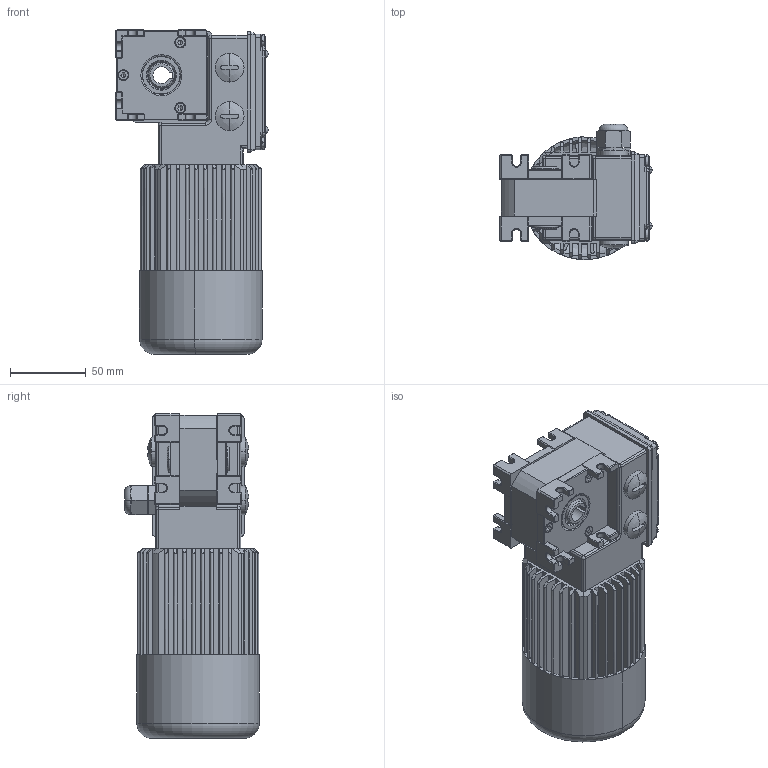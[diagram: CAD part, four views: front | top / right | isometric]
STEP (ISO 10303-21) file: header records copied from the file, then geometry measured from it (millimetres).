
FILE_DESCRIPTION((''),'2;1');
FILE_NAME('C:\Documents and Settings\marco\Desktop\DATI\DATI MARCO\Disegni inventor\STEP\MC\MC_P2-B3.stp','2003-08-26T16:43:32',('Administrator'),(''),'Autodesk Inventor 7','Autodesk Inventor 7','');
FILE_SCHEMA(('AUTOMOTIVE_DESIGN { 1 0 10303 214 1 1 1 1 }'));
Length unit declared in the file: millimetre
Products named in the file (1): MC_P2-B3
Bounding box: 100.45 x 88.89 x 213.9 mm (x, y, z)
Volume: 9153.3 mm3; surface area: 292646 mm2
Topology: 36 solids, 37 shells, 4608 faces, 12695 edges, 7859 vertices
Faces by surface type: plane 2040, cylinder 1338, bspline 573, torus 282, cone 281, sphere 94
Entity records: 159574 total; most frequent: CARTESIAN_POINT 42376, DIRECTION 25059, ORIENTED_EDGE 24938, EDGE_CURVE 12469, AXIS2_PLACEMENT_3D 9138, VERTEX_POINT 7823, VECTOR 6783, LINE 6783
